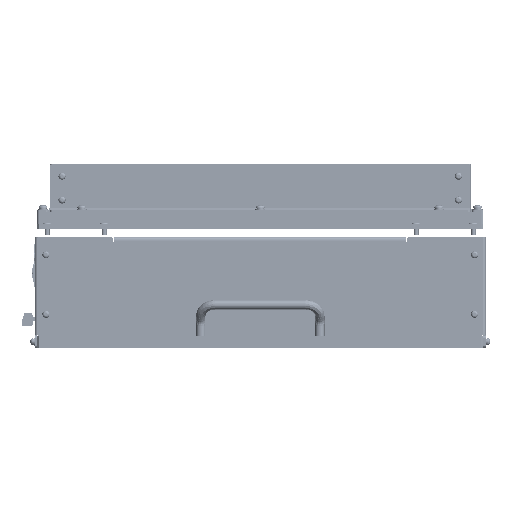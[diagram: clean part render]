
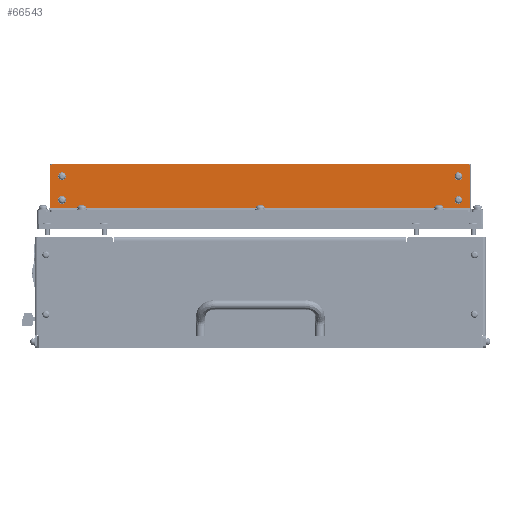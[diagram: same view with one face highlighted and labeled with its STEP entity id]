
A CAD part, left-side view. The second image highlights one B-rep face of the part: STEP entity #66543.
In plain terms, the highlighted planar face has unit normal (-1, 0, 0).
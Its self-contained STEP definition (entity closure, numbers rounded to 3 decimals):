
#567 = CARTESIAN_POINT ( 'NONE',  ( -237., 166.5, 139. ) ) ;
#3407 = CARTESIAN_POINT ( 'NONE',  ( -237., -176.5, 112. ) ) ;
#7519 = AXIS2_PLACEMENT_3D ( 'NONE', #175114, #73076, #192187 ) ;
#8640 = CARTESIAN_POINT ( 'NONE',  ( -237., -166.5, 119. ) ) ;
#10698 = ORIENTED_EDGE ( 'NONE', *, *, #136657, .F. ) ;
#11048 = DIRECTION ( 'NONE',  ( -1., 0., 0. ) ) ;
#11640 = ORIENTED_EDGE ( 'NONE', *, *, #12761, .T. ) ;
#12761 = EDGE_CURVE ( 'NONE', #149519, #54129, #75160, .T. ) ;
#13079 = FACE_BOUND ( 'NONE', #216878, .T. ) ;
#15650 = LINE ( 'NONE', #3407, #60910 ) ;
#16708 = LINE ( 'NONE', #84604, #141870 ) ;
#17707 = DIRECTION ( 'NONE',  ( 0., -1., 0. ) ) ;
#20110 = VERTEX_POINT ( 'NONE', #200106 ) ;
#21140 = CIRCLE ( 'NONE', #29700, 2. ) ;
#22151 = VERTEX_POINT ( 'NONE', #207630 ) ;
#23768 = FACE_BOUND ( 'NONE', #118029, .T. ) ;
#25760 = DIRECTION ( 'NONE',  ( 0., -1., 0. ) ) ;
#28240 = PLANE ( 'NONE',  #126820 ) ;
#29700 = AXIS2_PLACEMENT_3D ( 'NONE', #42270, #161427, #59328 ) ;
#29832 = VECTOR ( 'NONE', #50011, 1000. ) ;
#32702 = ORIENTED_EDGE ( 'NONE', *, *, #59153, .F. ) ;
#40624 = ORIENTED_EDGE ( 'NONE', *, *, #116273, .F. ) ;
#41293 = VERTEX_POINT ( 'NONE', #47856 ) ;
#42270 = CARTESIAN_POINT ( 'NONE',  ( -237., -174.5, 147. ) ) ;
#44734 = CARTESIAN_POINT ( 'NONE',  ( -237., 174.5, 147. ) ) ;
#47856 = CARTESIAN_POINT ( 'NONE',  ( -237., 168.2, 119. ) ) ;
#48837 = ORIENTED_EDGE ( 'NONE', *, *, #174241, .F. ) ;
#49737 = VERTEX_POINT ( 'NONE', #219647 ) ;
#49891 = ORIENTED_EDGE ( 'NONE', *, *, #106877, .F. ) ;
#50011 = DIRECTION ( 'NONE',  ( 0., 0., -1. ) ) ;
#52988 = ORIENTED_EDGE ( 'NONE', *, *, #201639, .F. ) ;
#54129 = VERTEX_POINT ( 'NONE', #200873 ) ;
#55026 = CARTESIAN_POINT ( 'NONE',  ( -237., -166.5, 119. ) ) ;
#58171 = VERTEX_POINT ( 'NONE', #70683 ) ;
#58345 = FACE_OUTER_BOUND ( 'NONE', #138246, .T. ) ;
#59153 = EDGE_CURVE ( 'NONE', #41293, #193257, #76048, .T. ) ;
#59328 = DIRECTION ( 'NONE',  ( 0., 1., 0. ) ) ;
#60910 = VECTOR ( 'NONE', #205103, 1000. ) ;
#61811 = DIRECTION ( 'NONE',  ( 0., 1., 0. ) ) ;
#62041 = EDGE_CURVE ( 'NONE', #58171, #22151, #16708, .T. ) ;
#62472 = DIRECTION ( 'NONE',  ( 0., 1., 0. ) ) ;
#65380 = EDGE_CURVE ( 'NONE', #22151, #149519, #114802, .T. ) ;
#66543 = ADVANCED_FACE ( 'NONE', ( #103661, #13079, #154328, #58345, #23768 ), #28240, .F. ) ;
#67140 = CARTESIAN_POINT ( 'NONE',  ( -237., 176.5, 109. ) ) ;
#70683 = CARTESIAN_POINT ( 'NONE',  ( -237., -174.5, 149. ) ) ;
#72080 = DIRECTION ( 'NONE',  ( 0., -1., 0. ) ) ;
#73076 = DIRECTION ( 'NONE',  ( -1., 0., 0. ) ) ;
#75160 = LINE ( 'NONE', #67140, #29832 ) ;
#76048 = CIRCLE ( 'NONE', #7519, 1.7 ) ;
#77214 = CARTESIAN_POINT ( 'NONE',  ( -237., -166.5, 139. ) ) ;
#79743 = CARTESIAN_POINT ( 'NONE',  ( -237., 164.8, 139. ) ) ;
#81011 = EDGE_CURVE ( 'NONE', #20110, #122452, #218650, .T. ) ;
#82892 = DIRECTION ( 'NONE',  ( -1., 0., 0. ) ) ;
#84604 = CARTESIAN_POINT ( 'NONE',  ( -237., 176.5, 149. ) ) ;
#86792 = AXIS2_PLACEMENT_3D ( 'NONE', #44734, #163885, #61811 ) ;
#87095 = EDGE_LOOP ( 'NONE', ( #40624, #32702 ) ) ;
#87734 = CARTESIAN_POINT ( 'NONE',  ( -237., 166.5, 119. ) ) ;
#88736 = AXIS2_PLACEMENT_3D ( 'NONE', #77214, #196304, #94341 ) ;
#94341 = DIRECTION ( 'NONE',  ( 0., -1., 0. ) ) ;
#96015 = CARTESIAN_POINT ( 'NONE',  ( -237., 0., 129. ) ) ;
#101577 = AXIS2_PLACEMENT_3D ( 'NONE', #567, #119701, #17707 ) ;
#103645 = VECTOR ( 'NONE', #186622, 1000. ) ;
#103661 = FACE_BOUND ( 'NONE', #87095, .T. ) ;
#104494 = EDGE_CURVE ( 'NONE', #173427, #210509, #187673, .T. ) ;
#104834 = DIRECTION ( 'NONE',  ( 0., -1., 0. ) ) ;
#105451 = CIRCLE ( 'NONE', #174221, 1.7 ) ;
#106877 = EDGE_CURVE ( 'NONE', #210509, #173427, #128521, .T. ) ;
#107710 = CARTESIAN_POINT ( 'NONE',  ( -237., -164.8, 139. ) ) ;
#111619 = VERTEX_POINT ( 'NONE', #79743 ) ;
#113095 = CARTESIAN_POINT ( 'NONE',  ( -237., 166.5, 139. ) ) ;
#113169 = DIRECTION ( 'NONE',  ( 1., 0., 0. ) ) ;
#114802 = CIRCLE ( 'NONE', #86792, 2. ) ;
#116273 = EDGE_CURVE ( 'NONE', #193257, #41293, #105451, .T. ) ;
#118029 = EDGE_LOOP ( 'NONE', ( #155958, #10698 ) ) ;
#118593 = ORIENTED_EDGE ( 'NONE', *, *, #127652, .T. ) ;
#119701 = DIRECTION ( 'NONE',  ( -1., 0., 0. ) ) ;
#120788 = CARTESIAN_POINT ( 'NONE',  ( -237., 176.5, 147. ) ) ;
#121477 = ORIENTED_EDGE ( 'NONE', *, *, #62041, .T. ) ;
#122452 = VERTEX_POINT ( 'NONE', #155049 ) ;
#122627 = AXIS2_PLACEMENT_3D ( 'NONE', #184860, #82892, #201955 ) ;
#125392 = VERTEX_POINT ( 'NONE', #129658 ) ;
#126820 = AXIS2_PLACEMENT_3D ( 'NONE', #96015, #113169, #62472 ) ;
#127436 = ORIENTED_EDGE ( 'NONE', *, *, #104494, .F. ) ;
#127652 = EDGE_CURVE ( 'NONE', #49737, #125392, #194197, .T. ) ;
#127745 = DIRECTION ( 'NONE',  ( -1., 0., 0. ) ) ;
#128521 = CIRCLE ( 'NONE', #88736, 1.7 ) ;
#129658 = CARTESIAN_POINT ( 'NONE',  ( -237., -176.5, 147. ) ) ;
#130124 = DIRECTION ( 'NONE',  ( 0., -1., 0. ) ) ;
#130587 = ORIENTED_EDGE ( 'NONE', *, *, #81011, .F. ) ;
#136657 = EDGE_CURVE ( 'NONE', #184769, #111619, #138799, .T. ) ;
#138246 = EDGE_LOOP ( 'NONE', ( #121477, #213025, #11640, #48837, #118593, #183460 ) ) ;
#138799 = CIRCLE ( 'NONE', #101577, 1.7 ) ;
#141870 = VECTOR ( 'NONE', #170225, 1000. ) ;
#146912 = AXIS2_PLACEMENT_3D ( 'NONE', #55026, #174148, #72080 ) ;
#149519 = VERTEX_POINT ( 'NONE', #120788 ) ;
#154328 = FACE_BOUND ( 'NONE', #193740, .T. ) ;
#155049 = CARTESIAN_POINT ( 'NONE',  ( -237., -164.8, 119. ) ) ;
#155958 = ORIENTED_EDGE ( 'NONE', *, *, #199686, .F. ) ;
#161427 = DIRECTION ( 'NONE',  ( -1., 0., 0. ) ) ;
#162823 = CARTESIAN_POINT ( 'NONE',  ( -237., 164.8, 119. ) ) ;
#163578 = CARTESIAN_POINT ( 'NONE',  ( -237., 168.2, 139. ) ) ;
#163885 = DIRECTION ( 'NONE',  ( -1., 0., 0. ) ) ;
#165717 = CARTESIAN_POINT ( 'NONE',  ( -237., -168.2, 139. ) ) ;
#169874 = CIRCLE ( 'NONE', #217987, 1.7 ) ;
#170225 = DIRECTION ( 'NONE',  ( 0., 1., 0. ) ) ;
#170650 = EDGE_CURVE ( 'NONE', #125392, #58171, #21140, .T. ) ;
#173427 = VERTEX_POINT ( 'NONE', #107710 ) ;
#174148 = DIRECTION ( 'NONE',  ( -1., 0., 0. ) ) ;
#174221 = AXIS2_PLACEMENT_3D ( 'NONE', #87734, #206762, #104834 ) ;
#174241 = EDGE_CURVE ( 'NONE', #49737, #54129, #15650, .T. ) ;
#174821 = CIRCLE ( 'NONE', #146912, 1.7 ) ;
#175114 = CARTESIAN_POINT ( 'NONE',  ( -237., 166.5, 119. ) ) ;
#183460 = ORIENTED_EDGE ( 'NONE', *, *, #170650, .T. ) ;
#184769 = VERTEX_POINT ( 'NONE', #163578 ) ;
#184860 = CARTESIAN_POINT ( 'NONE',  ( -237., -166.5, 139. ) ) ;
#186622 = DIRECTION ( 'NONE',  ( 0., 0., 1. ) ) ;
#187673 = CIRCLE ( 'NONE', #122627, 1.7 ) ;
#192187 = DIRECTION ( 'NONE',  ( 0., -1., 0. ) ) ;
#193257 = VERTEX_POINT ( 'NONE', #162823 ) ;
#193740 = EDGE_LOOP ( 'NONE', ( #130587, #52988 ) ) ;
#194197 = LINE ( 'NONE', #220784, #103645 ) ;
#196304 = DIRECTION ( 'NONE',  ( -1., 0., 0. ) ) ;
#199686 = EDGE_CURVE ( 'NONE', #111619, #184769, #169874, .T. ) ;
#200106 = CARTESIAN_POINT ( 'NONE',  ( -237., -168.2, 119. ) ) ;
#200873 = CARTESIAN_POINT ( 'NONE',  ( -237., 176.5, 112. ) ) ;
#201639 = EDGE_CURVE ( 'NONE', #122452, #20110, #174821, .T. ) ;
#201955 = DIRECTION ( 'NONE',  ( 0., -1., 0. ) ) ;
#205103 = DIRECTION ( 'NONE',  ( 0., 1., 0. ) ) ;
#206762 = DIRECTION ( 'NONE',  ( -1., 0., 0. ) ) ;
#207630 = CARTESIAN_POINT ( 'NONE',  ( -237., 174.5, 149. ) ) ;
#209971 = AXIS2_PLACEMENT_3D ( 'NONE', #8640, #127745, #25760 ) ;
#210509 = VERTEX_POINT ( 'NONE', #165717 ) ;
#213025 = ORIENTED_EDGE ( 'NONE', *, *, #65380, .T. ) ;
#216878 = EDGE_LOOP ( 'NONE', ( #49891, #127436 ) ) ;
#217987 = AXIS2_PLACEMENT_3D ( 'NONE', #113095, #11048, #130124 ) ;
#218650 = CIRCLE ( 'NONE', #209971, 1.7 ) ;
#219647 = CARTESIAN_POINT ( 'NONE',  ( -237., -176.5, 112. ) ) ;
#220784 = CARTESIAN_POINT ( 'NONE',  ( -237., -176.5, 109. ) ) ;
